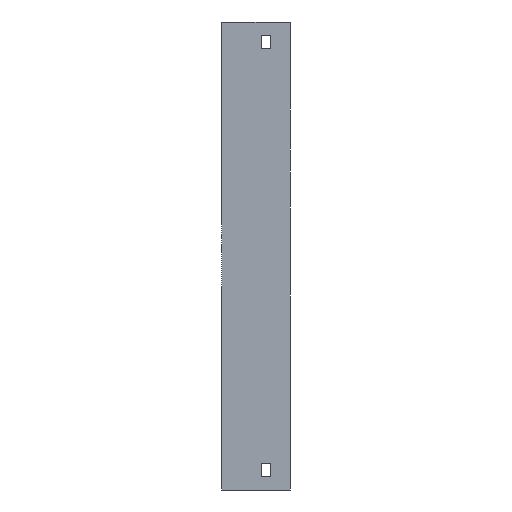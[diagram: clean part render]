
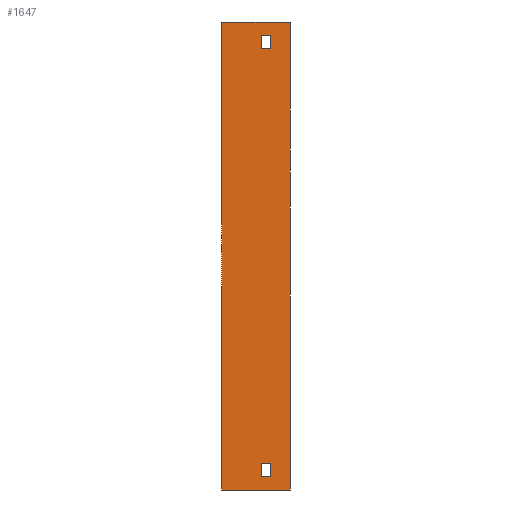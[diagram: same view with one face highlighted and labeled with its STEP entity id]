
A CAD part, left-side view. The second image highlights one B-rep face of the part: STEP entity #1647.
In plain terms, the highlighted planar face has unit normal (-1, 0, 0).
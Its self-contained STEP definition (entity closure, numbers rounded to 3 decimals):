
#34 = VECTOR ( 'NONE', #377, 1000. ) ;
#43 = LINE ( 'NONE', #802, #1666 ) ;
#55 = DIRECTION ( 'NONE',  ( 0., 0., -1. ) ) ;
#74 = CARTESIAN_POINT ( 'NONE',  ( -154., 15., 30. ) ) ;
#126 = LINE ( 'NONE', #717, #382 ) ;
#141 = DIRECTION ( 'NONE',  ( 0., 1., 0. ) ) ;
#150 = LINE ( 'NONE', #205, #1099 ) ;
#158 = VECTOR ( 'NONE', #446, 1000. ) ;
#169 = EDGE_LOOP ( 'NONE', ( #1854, #1738, #949, #441 ) ) ;
#171 = EDGE_CURVE ( 'NONE', #762, #1682, #884, .T. ) ;
#195 = EDGE_CURVE ( 'NONE', #572, #1834, #725, .T. ) ;
#205 = CARTESIAN_POINT ( 'NONE',  ( -154., 15., 40. ) ) ;
#268 = EDGE_CURVE ( 'NONE', #1834, #631, #126, .T. ) ;
#305 = CARTESIAN_POINT ( 'NONE',  ( -154., 52., -304. ) ) ;
#316 = CARTESIAN_POINT ( 'NONE',  ( -154., 22., -294. ) ) ;
#334 = CARTESIAN_POINT ( 'NONE',  ( -154., 52., -304. ) ) ;
#351 = FACE_BOUND ( 'NONE', #483, .T. ) ;
#377 = DIRECTION ( 'NONE',  ( 0., 0., 1. ) ) ;
#382 = VECTOR ( 'NONE', #1312, 1000. ) ;
#386 = EDGE_LOOP ( 'NONE', ( #454, #1266, #1355, #469 ) ) ;
#395 = VERTEX_POINT ( 'NONE', #74 ) ;
#441 = ORIENTED_EDGE ( 'NONE', *, *, #1466, .T. ) ;
#446 = DIRECTION ( 'NONE',  ( 0., -1., 0. ) ) ;
#447 = AXIS2_PLACEMENT_3D ( 'NONE', #334, #1221, #472 ) ;
#454 = ORIENTED_EDGE ( 'NONE', *, *, #648, .T. ) ;
#469 = ORIENTED_EDGE ( 'NONE', *, *, #497, .T. ) ;
#472 = DIRECTION ( 'NONE',  ( 0., 0., -1. ) ) ;
#479 = VECTOR ( 'NONE', #1006, 1000. ) ;
#482 = VECTOR ( 'NONE', #1354, 1000. ) ;
#483 = EDGE_LOOP ( 'NONE', ( #921, #1494, #1926, #870 ) ) ;
#497 = EDGE_CURVE ( 'NONE', #716, #1704, #1601, .T. ) ;
#519 = CARTESIAN_POINT ( 'NONE',  ( -154., 52., -304. ) ) ;
#521 = VERTEX_POINT ( 'NONE', #1198 ) ;
#572 = VERTEX_POINT ( 'NONE', #316 ) ;
#586 = CARTESIAN_POINT ( 'NONE',  ( -154., 22., 40. ) ) ;
#619 = EDGE_CURVE ( 'NONE', #716, #1232, #1640, .T. ) ;
#631 = VERTEX_POINT ( 'NONE', #1113 ) ;
#632 = CARTESIAN_POINT ( 'NONE',  ( -154., 52., 50. ) ) ;
#648 = EDGE_CURVE ( 'NONE', #1704, #1130, #43, .T. ) ;
#667 = CARTESIAN_POINT ( 'NONE',  ( -154., 52., -304. ) ) ;
#716 = VERTEX_POINT ( 'NONE', #519 ) ;
#717 = CARTESIAN_POINT ( 'NONE',  ( -154., 15., -294. ) ) ;
#720 = LINE ( 'NONE', #1177, #1073 ) ;
#725 = LINE ( 'NONE', #1174, #1531 ) ;
#762 = VERTEX_POINT ( 'NONE', #1411 ) ;
#787 = FACE_OUTER_BOUND ( 'NONE', #386, .T. ) ;
#802 = CARTESIAN_POINT ( 'NONE',  ( -154., 0., -304. ) ) ;
#803 = CARTESIAN_POINT ( 'NONE',  ( -154., 15., -294. ) ) ;
#847 = CARTESIAN_POINT ( 'NONE',  ( -154., 22., 30. ) ) ;
#870 = ORIENTED_EDGE ( 'NONE', *, *, #268, .F. ) ;
#880 = LINE ( 'NONE', #1136, #1724 ) ;
#884 = LINE ( 'NONE', #586, #158 ) ;
#919 = CARTESIAN_POINT ( 'NONE',  ( -154., 22., 30. ) ) ;
#921 = ORIENTED_EDGE ( 'NONE', *, *, #195, .F. ) ;
#929 = CARTESIAN_POINT ( 'NONE',  ( -154., 15., 40. ) ) ;
#949 = ORIENTED_EDGE ( 'NONE', *, *, #1925, .T. ) ;
#967 = VECTOR ( 'NONE', #1501, 1000. ) ;
#974 = LINE ( 'NONE', #1265, #34 ) ;
#1006 = DIRECTION ( 'NONE',  ( 0., -1., 0. ) ) ;
#1073 = VECTOR ( 'NONE', #141, 1000. ) ;
#1099 = VECTOR ( 'NONE', #55, 1000. ) ;
#1106 = DIRECTION ( 'NONE',  ( 0., 0., 1. ) ) ;
#1113 = CARTESIAN_POINT ( 'NONE',  ( -154., 15., -284. ) ) ;
#1127 = VERTEX_POINT ( 'NONE', #847 ) ;
#1130 = VERTEX_POINT ( 'NONE', #1935 ) ;
#1136 = CARTESIAN_POINT ( 'NONE',  ( -154., 22., -294. ) ) ;
#1174 = CARTESIAN_POINT ( 'NONE',  ( -154., 22., -294. ) ) ;
#1177 = CARTESIAN_POINT ( 'NONE',  ( -154., 22., -284. ) ) ;
#1198 = CARTESIAN_POINT ( 'NONE',  ( -154., 22., -284. ) ) ;
#1202 = DIRECTION ( 'NONE',  ( 0., 0., -1. ) ) ;
#1221 = DIRECTION ( 'NONE',  ( 1., 0., 0. ) ) ;
#1232 = VERTEX_POINT ( 'NONE', #632 ) ;
#1265 = CARTESIAN_POINT ( 'NONE',  ( -154., 22., 40. ) ) ;
#1266 = ORIENTED_EDGE ( 'NONE', *, *, #1427, .F. ) ;
#1282 = EDGE_CURVE ( 'NONE', #1127, #762, #974, .T. ) ;
#1312 = DIRECTION ( 'NONE',  ( 0., 0., 1. ) ) ;
#1354 = DIRECTION ( 'NONE',  ( 0., 1., 0. ) ) ;
#1355 = ORIENTED_EDGE ( 'NONE', *, *, #619, .F. ) ;
#1362 = CARTESIAN_POINT ( 'NONE',  ( -154., 0., -304. ) ) ;
#1385 = PLANE ( 'NONE',  #447 ) ;
#1411 = CARTESIAN_POINT ( 'NONE',  ( -154., 22., 40. ) ) ;
#1427 = EDGE_CURVE ( 'NONE', #1232, #1130, #1924, .T. ) ;
#1450 = EDGE_CURVE ( 'NONE', #521, #572, #880, .T. ) ;
#1466 = EDGE_CURVE ( 'NONE', #395, #1127, #1671, .T. ) ;
#1469 = VECTOR ( 'NONE', #1615, 1000. ) ;
#1494 = ORIENTED_EDGE ( 'NONE', *, *, #1450, .F. ) ;
#1497 = DIRECTION ( 'NONE',  ( 0., -1., 0. ) ) ;
#1501 = DIRECTION ( 'NONE',  ( 0., 0., 1. ) ) ;
#1531 = VECTOR ( 'NONE', #1497, 1000. ) ;
#1544 = EDGE_CURVE ( 'NONE', #631, #521, #720, .T. ) ;
#1601 = LINE ( 'NONE', #667, #479 ) ;
#1615 = DIRECTION ( 'NONE',  ( 0., -1., 0. ) ) ;
#1640 = LINE ( 'NONE', #305, #967 ) ;
#1647 = ADVANCED_FACE ( 'NONE', ( #787, #1655, #351 ), #1385, .F. ) ;
#1655 = FACE_BOUND ( 'NONE', #169, .T. ) ;
#1666 = VECTOR ( 'NONE', #1106, 1000. ) ;
#1671 = LINE ( 'NONE', #919, #482 ) ;
#1682 = VERTEX_POINT ( 'NONE', #929 ) ;
#1704 = VERTEX_POINT ( 'NONE', #1362 ) ;
#1724 = VECTOR ( 'NONE', #1202, 1000. ) ;
#1738 = ORIENTED_EDGE ( 'NONE', *, *, #171, .T. ) ;
#1783 = CARTESIAN_POINT ( 'NONE',  ( -154., 52., 50. ) ) ;
#1834 = VERTEX_POINT ( 'NONE', #803 ) ;
#1854 = ORIENTED_EDGE ( 'NONE', *, *, #1282, .T. ) ;
#1924 = LINE ( 'NONE', #1783, #1469 ) ;
#1925 = EDGE_CURVE ( 'NONE', #1682, #395, #150, .T. ) ;
#1926 = ORIENTED_EDGE ( 'NONE', *, *, #1544, .F. ) ;
#1935 = CARTESIAN_POINT ( 'NONE',  ( -154., 0., 50. ) ) ;
